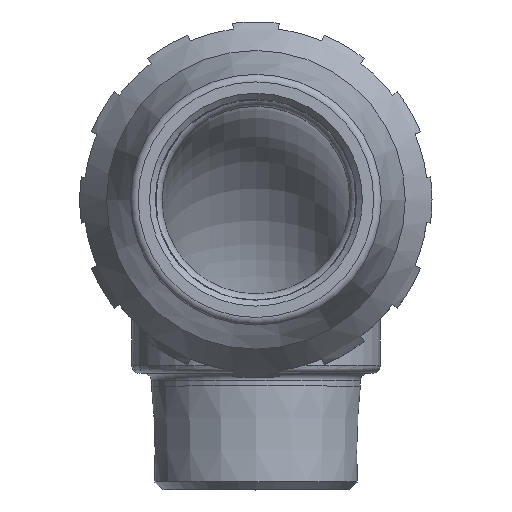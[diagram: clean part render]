
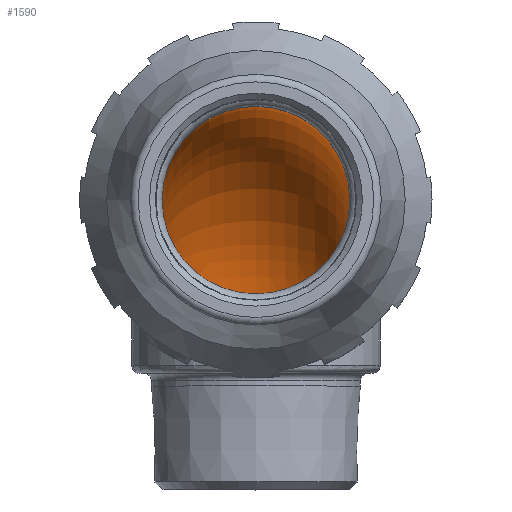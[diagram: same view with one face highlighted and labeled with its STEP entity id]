
A CAD part, top view. The second image highlights one B-rep face of the part: STEP entity #1590.
In plain terms, the highlighted toroidal (fillet/blend) face has major radius 15.876 mm and minor radius 12 mm.
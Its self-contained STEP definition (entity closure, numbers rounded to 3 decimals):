
#1590 = ADVANCED_FACE( '', ( #3177 ), #3178, .F. );
#3177 = FACE_OUTER_BOUND( '', #5554, .T. );
#3178 = TOROIDAL_SURFACE( '', #5555, 15.875, 12. );
#5554 = EDGE_LOOP( '', ( #9809, #9810 ) );
#5555 = AXIS2_PLACEMENT_3D( '', #9811, #9812, #9813 );
#9809 = ORIENTED_EDGE( '', *, *, #11746, .T. );
#9810 = ORIENTED_EDGE( '', *, *, #11745, .F. );
#9811 = CARTESIAN_POINT( '', ( 0., -15.875, -34.938 ) );
#9812 = DIRECTION( '', ( 1., 0., 0. ) );
#9813 = DIRECTION( '', ( 0., 0., 1. ) );
#11745 = EDGE_CURVE( '', #14384, #14385, #14386, .T. );
#11746 = EDGE_CURVE( '', #14384, #14385, #14387, .T. );
#14384 = VERTEX_POINT( '', #20821 );
#14385 = VERTEX_POINT( '', #20822 );
#14386 = CIRCLE( '', #20823, 12. );
#14387 = B_SPLINE_CURVE_WITH_KNOTS( '', 3, ( #20824, #20825, #20826, #20827, #20828, #20829, #20830, #20831, #20832, #20833, #20834, #20835, #20836, #20837, #20838, #20839, #20840, #20841, #20842, #20843, #20844, #20845, #20846, #20847, #20848, #20849, #20850, #20851, #20852, #20853, #20854, #20855, #20856, #20857, #20858, #20859 ), .UNSPECIFIED., .F., .F., ( 4, 1, 1, 1, 1, 1, 1, 1, 1, 1, 1, 1, 1, 1, 1, 1, 1, 1, 1, 1, 1, 1, 1, 1, 1, 1, 1, 1, 1, 1, 1, 1, 1, 4 ), ( 0., 0.008, 0.015, 0.023, 0.031, 0.047, 0.063, 0.094, 0.125, 0.157, 0.188, 0.25, 0.313, 0.375, 0.406, 0.438, 0.469, 0.5, 0.532, 0.563, 0.594, 0.625, 0.656, 0.688, 0.75, 0.813, 0.844, 0.875, 0.906, 0.937, 0.953, 0.969, 0.985, 1. ), .UNSPECIFIED. );
#20821 = CARTESIAN_POINT( '', ( -12., 0., -34.938 ) );
#20822 = CARTESIAN_POINT( '', ( 12., 0., -34.938 ) );
#20823 = AXIS2_PLACEMENT_3D( '', #22959, #22960, #22961 );
#20824 = CARTESIAN_POINT( '', ( -12., 0., -34.938 ) );
#20825 = CARTESIAN_POINT( '', ( -12., -0.001, -35.122 ) );
#20826 = CARTESIAN_POINT( '', ( -12., -0.004, -35.495 ) );
#20827 = CARTESIAN_POINT( '', ( -12., -0.019, -36.058 ) );
#20828 = CARTESIAN_POINT( '', ( -12., -0.044, -36.632 ) );
#20829 = CARTESIAN_POINT( '', ( -12., -0.091, -37.397 ) );
#20830 = CARTESIAN_POINT( '', ( -11.999, -0.176, -38.348 ) );
#20831 = CARTESIAN_POINT( '', ( -11.995, -0.365, -39.852 ) );
#20832 = CARTESIAN_POINT( '', ( -11.983, -0.699, -41.721 ) );
#20833 = CARTESIAN_POINT( '', ( -11.94, -1.247, -43.928 ) );
#20834 = CARTESIAN_POINT( '', ( -11.851, -1.937, -46.095 ) );
#20835 = CARTESIAN_POINT( '', ( -11.639, -3.019, -48.907 ) );
#20836 = CARTESIAN_POINT( '', ( -11.138, -4.659, -52.286 ) );
#20837 = CARTESIAN_POINT( '', ( -9.928, -6.939, -56.03 ) );
#20838 = CARTESIAN_POINT( '', ( -8.166, -8.93, -58.784 ) );
#20839 = CARTESIAN_POINT( '', ( -6.172, -10.351, -60.585 ) );
#20840 = CARTESIAN_POINT( '', ( -4.359, -11.247, -61.667 ) );
#20841 = CARTESIAN_POINT( '', ( -2.255, -11.858, -62.38 ) );
#20842 = CARTESIAN_POINT( '', ( 0.027, -12.073, -62.626 ) );
#20843 = CARTESIAN_POINT( '', ( 2.304, -11.848, -62.368 ) );
#20844 = CARTESIAN_POINT( '', ( 4.381, -11.236, -61.654 ) );
#20845 = CARTESIAN_POINT( '', ( 6.19, -10.341, -60.572 ) );
#20846 = CARTESIAN_POINT( '', ( 7.68, -9.275, -59.222 ) );
#20847 = CARTESIAN_POINT( '', ( 8.889, -8.114, -57.655 ) );
#20848 = CARTESIAN_POINT( '', ( 10.139, -6.545, -55.383 ) );
#20849 = CARTESIAN_POINT( '', ( 11.146, -4.638, -52.248 ) );
#20850 = CARTESIAN_POINT( '', ( 11.643, -3.005, -48.874 ) );
#20851 = CARTESIAN_POINT( '', ( 11.853, -1.926, -46.065 ) );
#20852 = CARTESIAN_POINT( '', ( 11.941, -1.241, -43.905 ) );
#20853 = CARTESIAN_POINT( '', ( 11.983, -0.696, -41.708 ) );
#20854 = CARTESIAN_POINT( '', ( 11.995, -0.364, -39.848 ) );
#20855 = CARTESIAN_POINT( '', ( 11.999, -0.176, -38.347 ) );
#20856 = CARTESIAN_POINT( '', ( 12., -0.074, -37.206 ) );
#20857 = CARTESIAN_POINT( '', ( 12., -0.013, -36.069 ) );
#20858 = CARTESIAN_POINT( '', ( 12., -0.004, -35.31 ) );
#20859 = CARTESIAN_POINT( '', ( 12., 0., -34.938 ) );
#22959 = CARTESIAN_POINT( '', ( 0., 0., -34.938 ) );
#22960 = DIRECTION( '', ( 0., 0., -1. ) );
#22961 = DIRECTION( '', ( 0., -1., 0. ) );
